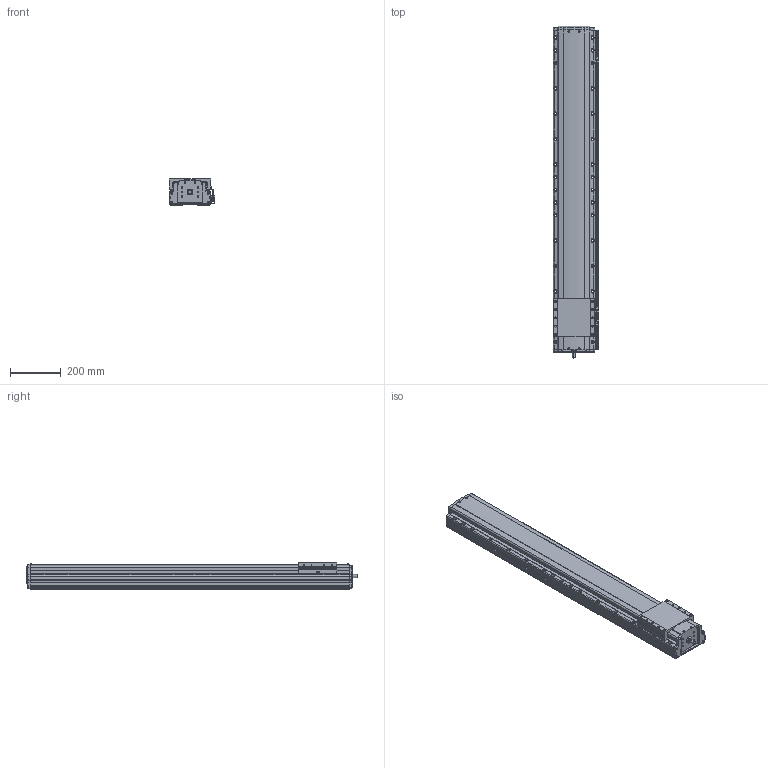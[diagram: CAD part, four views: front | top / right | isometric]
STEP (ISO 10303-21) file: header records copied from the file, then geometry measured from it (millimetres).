
FILE_DESCRIPTION(('STEP AP214'),'1');
FILE_NAME('Z:/Web/3D/PSA165/STP/PSA165-1000 (3D)/PSA165ㅁㅁ-1000+3SR.stp','2014-06-24T10:22:10',(' '),(' '),'Spatial InterOp 3D',' ',' ');
FILE_SCHEMA(('automotive_design'));
Length unit declared in the file: millimetre
Products named in the file (36): 스크루 : Round - M4.0 x 12.0; RRCV-PA160; BASE; 스크루 : Round - M4.0 x 10.0; RN15; Screw 20; SLIDE; FRCV; M3.0 x 6.0; SRL-16x17-360L; SGD-SAN150; EE-SX674; SBK-SX674-352; 스크루 : Round - M3.0 x 6.0; BHCS M4.0 x 10.0
Bounding box: 181 x 1308.8 x 104 mm (x, y, z)
Volume: 17673087.7 mm3; surface area: 1214984.2 mm2
Topology: 36 solids, 36 shells, 2524 faces, 6805 edges, 4369 vertices
Faces by surface type: plane 1423, cylinder 791, cone 217, sphere 52, bspline 25, torus 16
Entity records: 102882 total; most frequent: CARTESIAN_POINT 18060, DIRECTION 13465, ORIENTED_EDGE 13310, EDGE_CURVE 6655, AXIS2_PLACEMENT_3D 4508, LINE 4449, VECTOR 4449, VERTEX_POINT 4369
